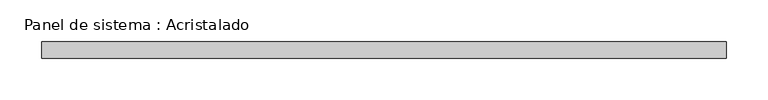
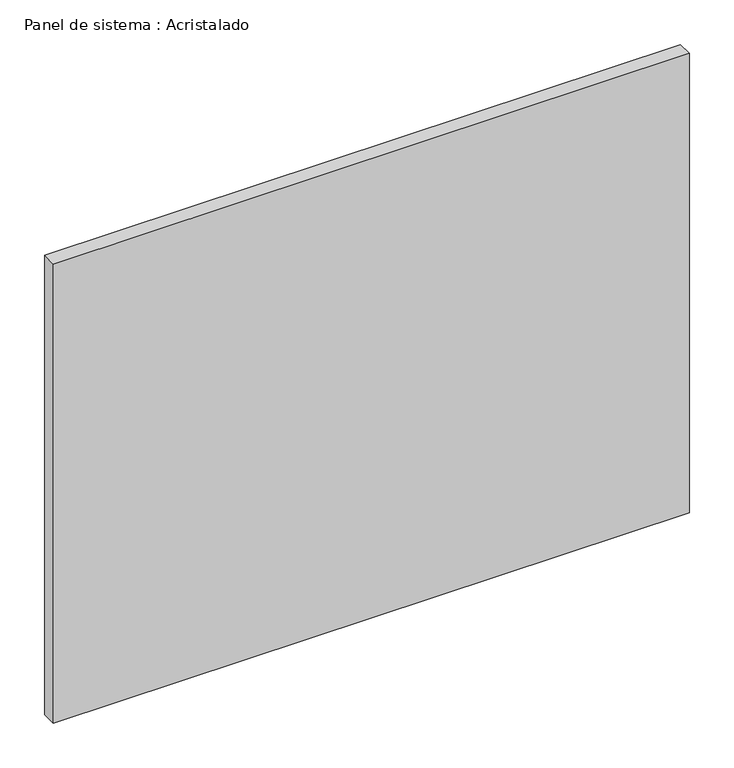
"""IFC4 building model written with IfcOpenShell, lengths in millimetres: plate geometry, Panel de sistema : Acristalado."""

from ifc_helpers import new_model, si_unit, origin, origin_with_axes, place, context, project, spatial, polyline, outline, extrude, source, transform, mapped, element, save


def panel_de_sistema_acristalado_7991404c(model_context):
    return source(origin(), model_context, "Body", "SweptSolid", [
        extrude(outline(polyline([(412.5, -10.0), (-412.5, -10.0), (-412.5, 10.0), (412.5, 10.0), (412.5, -10.0)])), origin_with_axes(), (0.0, 0.0, 1.0), 630.0),
    ])


if __name__ == "__main__":
    model = new_model("IFC4")
    model_context = context("Model", 3, world=origin())
    ifc_project = project(units=[si_unit("LENGTHUNIT", "METRE", prefix="MILLI")], contexts=[model_context])
    site = spatial("IfcSite", under=ifc_project)
    building = spatial("IfcBuilding", under=site)
    placement = place(None, origin())
    panel_de_sistema_acristalado_shape = panel_de_sistema_acristalado_7991404c(model_context)
    element("IfcPlate", 1, ObjectType="Panel de sistema : Acristalado", at=placement, inside=building, context=model_context, shape_type="MappedRepresentation", body=[
        mapped(panel_de_sistema_acristalado_shape, transform((0.0, 0.0, 0.0), x_axis=(1.0, 0.0, 0.0), y_axis=(0.0, 1.0, 0.0), z_axis=(0.0, 0.0, 1.0))),
    ])
    save(model, "model.ifc")
